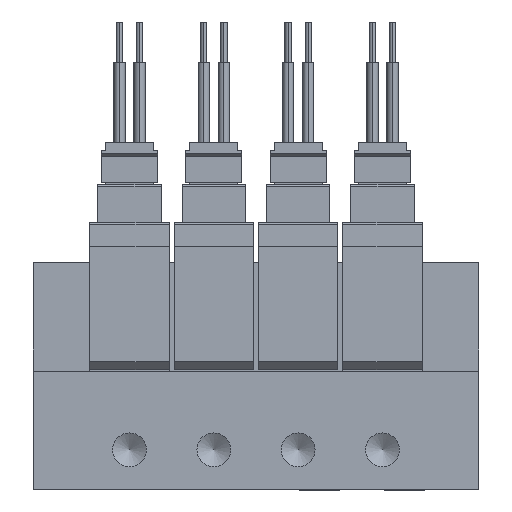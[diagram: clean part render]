
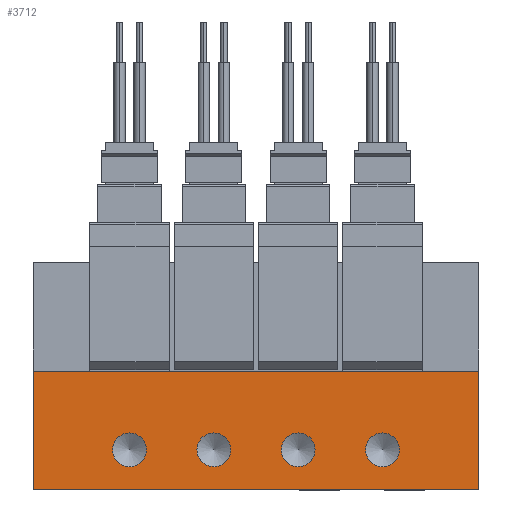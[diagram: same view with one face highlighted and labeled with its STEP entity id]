
A CAD part, front view. The second image highlights one B-rep face of the part: STEP entity #3712.
In plain terms, the highlighted planar face has unit normal (0, -1, 0).
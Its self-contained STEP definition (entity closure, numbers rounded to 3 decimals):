
#3712=ADVANCED_FACE('',(#5774,#5775,#5776,#5777,#5778),#5779,.F.);
#5774=FACE_BOUND('',#9958,.T.);
#5775=FACE_BOUND('',#9959,.T.);
#5776=FACE_BOUND('',#9960,.T.);
#5777=FACE_BOUND('',#9961,.T.);
#5778=FACE_OUTER_BOUND('',#9962,.T.);
#5779=PLANE('',#9963);
#9958=EDGE_LOOP('',(#15402));
#9959=EDGE_LOOP('',(#15403));
#9960=EDGE_LOOP('',(#15404));
#9961=EDGE_LOOP('',(#15405));
#9962=EDGE_LOOP('',(#15406,#15407,#15408,#15409));
#9963=AXIS2_PLACEMENT_3D('',#15410,#15411,#15412);
#15402=ORIENTED_EDGE('',*,*,#31764,.F.);
#15403=ORIENTED_EDGE('',*,*,#31787,.F.);
#15404=ORIENTED_EDGE('',*,*,#31788,.F.);
#15405=ORIENTED_EDGE('',*,*,#31789,.F.);
#15406=ORIENTED_EDGE('',*,*,#31790,.F.);
#15407=ORIENTED_EDGE('',*,*,#31791,.F.);
#15408=ORIENTED_EDGE('',*,*,#31792,.T.);
#15409=ORIENTED_EDGE('',*,*,#31785,.T.);
#15410=CARTESIAN_POINT('',(-55.5,0.,14.8));
#15411=DIRECTION('',(0.0,1.0,0.));
#15412=DIRECTION('',(0.0,0.,1.0));
#31764=EDGE_CURVE('',#37144,#37144,#37145,.T.);
#31785=EDGE_CURVE('',#37183,#37181,#37184,.T.);
#31787=EDGE_CURVE('',#37186,#37186,#37187,.T.);
#31788=EDGE_CURVE('',#37188,#37188,#37189,.T.);
#31789=EDGE_CURVE('',#37190,#37190,#37191,.T.);
#31790=EDGE_CURVE('',#37192,#37181,#37193,.T.);
#31791=EDGE_CURVE('',#37194,#37192,#37195,.T.);
#31792=EDGE_CURVE('',#37194,#37183,#37196,.T.);
#37144=VERTEX_POINT('',#46276);
#37145=CIRCLE('',#46277,2.1);
#37181=VERTEX_POINT('',#46326);
#37183=VERTEX_POINT('',#46329);
#37184=LINE('',#46330,#46331);
#37186=VERTEX_POINT('',#46334);
#37187=CIRCLE('',#46335,2.1);
#37188=VERTEX_POINT('',#46336);
#37189=CIRCLE('',#46337,2.1);
#37190=VERTEX_POINT('',#46338);
#37191=CIRCLE('',#46339,2.1);
#37192=VERTEX_POINT('',#46340);
#37193=LINE('',#46341,#46342);
#37194=VERTEX_POINT('',#46343);
#37195=LINE('',#46344,#46345);
#37196=LINE('',#46346,#46347);
#46276=CARTESIAN_POINT('',(-43.5,0.,2.9));
#46277=AXIS2_PLACEMENT_3D('',#59069,#59070,#59071);
#46326=CARTESIAN_POINT('',(0.0,0.0,0.0));
#46329=CARTESIAN_POINT('',(-55.5,0.0,0.0));
#46330=CARTESIAN_POINT('',(-55.5,0.0,0.0));
#46331=VECTOR('',#59104,1.0);
#46334=CARTESIAN_POINT('',(-33.0,0.,2.9));
#46335=AXIS2_PLACEMENT_3D('',#59106,#59107,#59108);
#46336=CARTESIAN_POINT('',(-22.5,0.,2.9));
#46337=AXIS2_PLACEMENT_3D('',#59109,#59110,#59111);
#46338=CARTESIAN_POINT('',(-12.0,0.,2.9));
#46339=AXIS2_PLACEMENT_3D('',#59112,#59113,#59114);
#46340=CARTESIAN_POINT('',(0.0,0.,14.8));
#46341=CARTESIAN_POINT('',(0.0,0.,14.8));
#46342=VECTOR('',#59115,1.0);
#46343=CARTESIAN_POINT('',(-55.5,0.,14.8));
#46344=CARTESIAN_POINT('',(-55.5,0.,14.8));
#46345=VECTOR('',#59116,1.0);
#46346=CARTESIAN_POINT('',(-55.5,0.,14.8));
#46347=VECTOR('',#59117,1.0);
#59069=CARTESIAN_POINT('',(-43.5,0.0,5.0));
#59070=DIRECTION('',(0.0,-1.0,0.));
#59071=DIRECTION('',(0.0,0.,-1.0));
#59104=DIRECTION('',(1.0,0.0,0.0));
#59106=CARTESIAN_POINT('',(-33.0,0.0,5.0));
#59107=DIRECTION('',(0.0,-1.0,0.));
#59108=DIRECTION('',(0.0,0.,-1.0));
#59109=CARTESIAN_POINT('',(-22.5,0.0,5.0));
#59110=DIRECTION('',(0.0,-1.0,0.));
#59111=DIRECTION('',(0.0,0.,-1.0));
#59112=CARTESIAN_POINT('',(-12.0,0.0,5.0));
#59113=DIRECTION('',(0.0,-1.0,0.));
#59114=DIRECTION('',(0.0,0.,-1.0));
#59115=DIRECTION('',(0.0,0.,-1.0));
#59116=DIRECTION('',(1.0,0.0,0.0));
#59117=DIRECTION('',(0.0,0.,-1.0));
